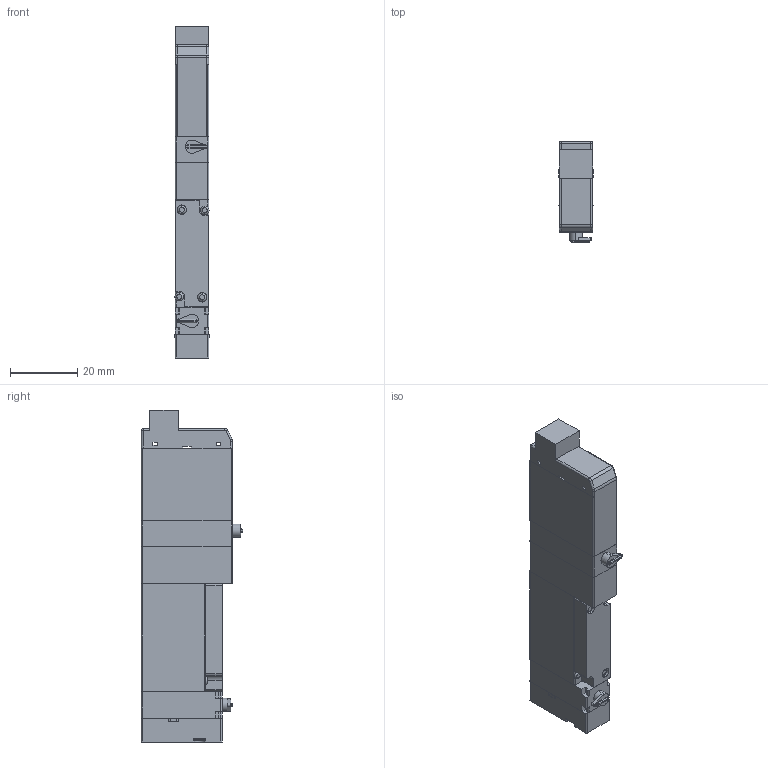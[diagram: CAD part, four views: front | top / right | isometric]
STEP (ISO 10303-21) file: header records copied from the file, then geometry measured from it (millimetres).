
FILE_DESCRIPTION( (''), '2;1');
FILE_NAME ('CVICAD02.13484.F10T3-R-A1-PN_6071.stp','2020-09-01T14:11:40',(''),(''),'spGate 12.6.6','','');
FILE_SCHEMA (('AUTOMOTIVE_DESIGN'));
Length unit declared in the file: millimetre
Products named in the file (8): Assembly; F10_Adptor; F10_Cap; F10T_Body; F10_SwitchBlock-R; F_3PortBody-R; F_Connector-PN; F10_A1
Assembly tree (7 placements, depth 2):
  Assembly
    F10_Adptor
    F10_Cap
    F10T_Body
    F10_SwitchBlock-R
    F_3PortBody-R
    F_Connector-PN
    F10_A1
Bounding box: 10.2 x 30 x 98.5 mm (x, y, z)
Volume: 23707.5 mm3; surface area: 11076.3 mm2
Topology: 7 solids, 7 shells, 273 faces, 684 edges, 434 vertices
Faces by surface type: plane 138, cylinder 105, bspline 20, sphere 10
Entity records: 14102 total; most frequent: CARTESIAN_POINT 1832, DIRECTION 1419, ORIENTED_EDGE 1348, COLOUR_RGB 954, PRESENTATION_STYLE_ASSIGNMENT 954, STYLED_ITEM 954, EDGE_CURVE 674, DRAUGHTING_PRE_DEFINED_CURVE_FONT 674
